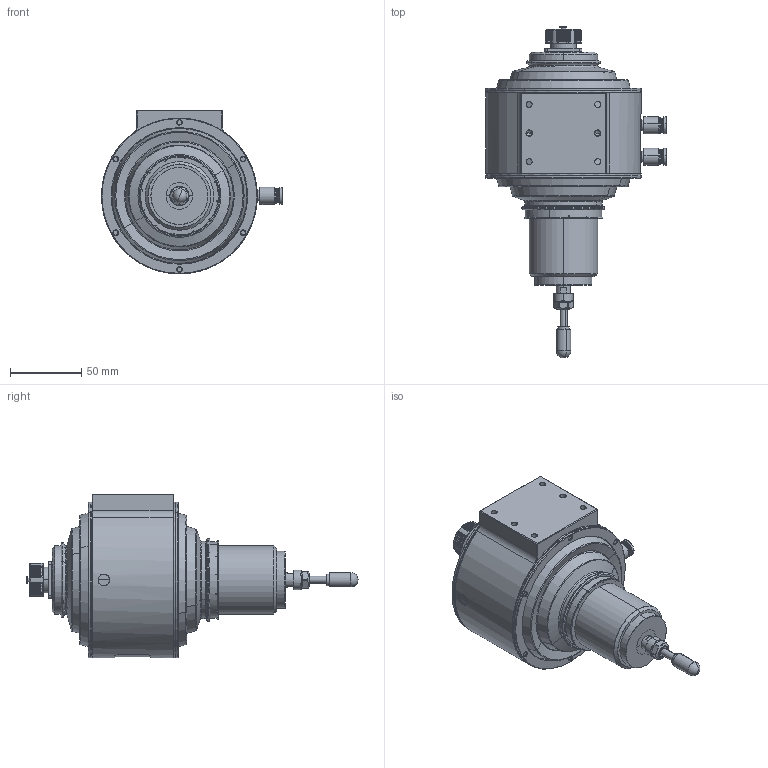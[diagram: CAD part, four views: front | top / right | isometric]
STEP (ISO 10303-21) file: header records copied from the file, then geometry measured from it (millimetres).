
FILE_DESCRIPTION (( 'STEP AP203' ), '1' );
FILE_NAME ('JXDM-48-00湖艦芛300W.STEP', '2021-08-07T06:31:16', ( '' ), ( '' ), 'SwSTEP 2.0', 'SolidWorks 2018', '' );
FILE_SCHEMA (( 'CONFIG_CONTROL_DESIGN' ));
Length unit declared in the file: millimetre
Products named in the file (1): JXDM-48-00湖艦芛300W
Bounding box: 126.6 x 232.24 x 114.5 mm (x, y, z)
Volume: 900311.9 mm3; surface area: 71806.5 mm2
Topology: 2 solids, 4 shells, 1064 faces, 2555 edges, 1582 vertices
Faces by surface type: cylinder 371, plane 352, cone 147, torus 134, bspline 44, sphere 16
Entity records: 36310 total; most frequent: CARTESIAN_POINT 11557, DIRECTION 5338, ORIENTED_EDGE 5086, EDGE_CURVE 2543, AXIS2_PLACEMENT_3D 2134, VERTEX_POINT 1580, EDGE_LOOP 1159, CIRCLE 1113
